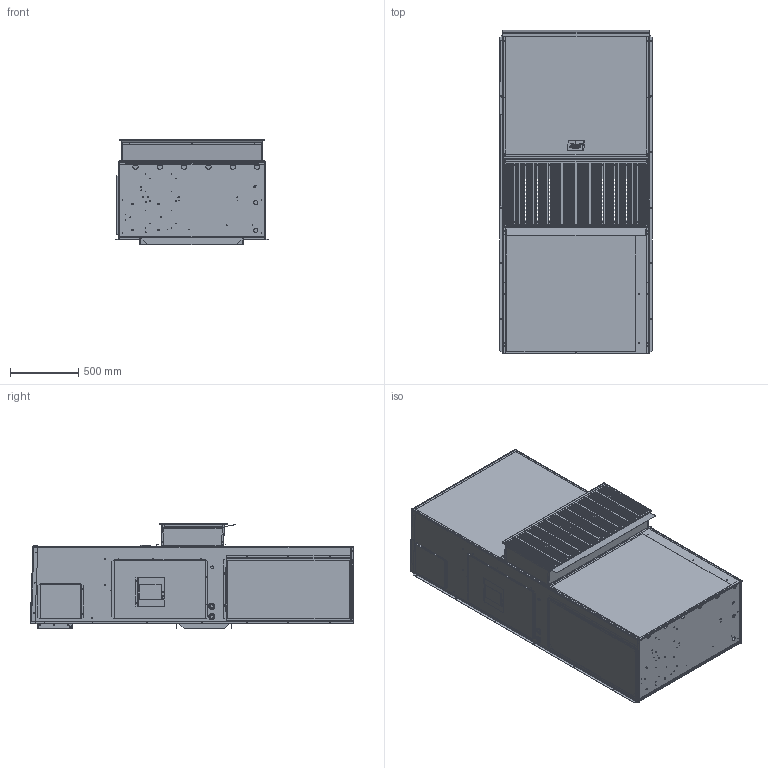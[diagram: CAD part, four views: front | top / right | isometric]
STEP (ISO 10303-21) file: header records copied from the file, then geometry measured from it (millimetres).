
FILE_DESCRIPTION (( 'STEP AP203' ), '1' );
FILE_NAME ('STEP_1300_7.STEP', '2016-06-28T17:30:55', ( 'BMC' ), ( 'Bard Manufacturing Co., Inc.' ), 'SwSTEP 2.0', 'SolidWorks 2016', '' );
FILE_SCHEMA (( 'CONFIG_CONTROL_DESIGN' ));
Products named in the file (1): STEP_1300_7
Bounding box: 1110.85 x 2362.89 x 768.74 mm (x, y, z)
Surface area: 21226754.6 mm2 (no closed solid volume)
Topology: 0 solids, 48 shells, 5085 faces, 14594 edges, 9584 vertices
Faces by surface type: plane 2867, cylinder 1325, bspline 889, cone 4
Entity records: 196783 total; most frequent: CARTESIAN_POINT 62896, ORIENTED_EDGE 28807, DIRECTION 25754, EDGE_CURVE 14592, VERTEX_POINT 9584, VECTOR 9458, LINE 9458, AXIS2_PLACEMENT_3D 8148
